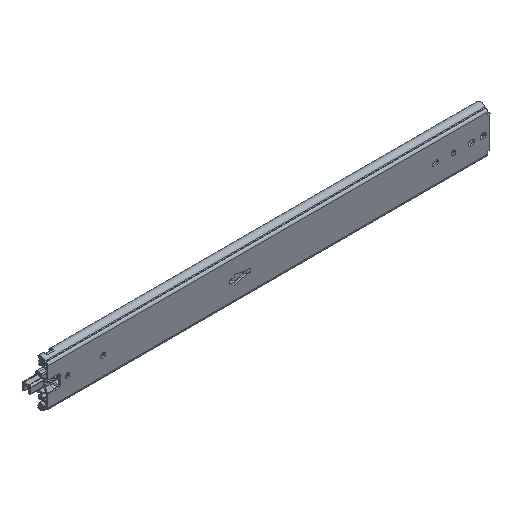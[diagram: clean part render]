
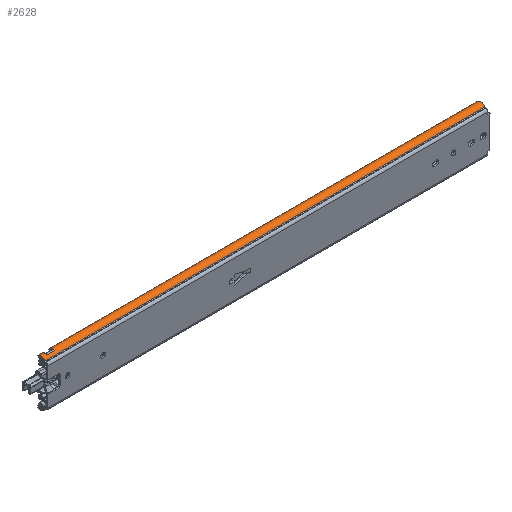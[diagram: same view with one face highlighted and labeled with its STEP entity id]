
A CAD part, isometric view. The second image highlights one B-rep face of the part: STEP entity #2628.
In plain terms, the highlighted cylindrical face has radius 7.25 mm (diameter 14.5 mm), a partial arc.
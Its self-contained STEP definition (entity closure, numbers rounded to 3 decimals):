
#5=CARTESIAN_POINT('',(0.,16.079,36.021));
#6=CARTESIAN_POINT('',(0.,15.489,36.501));
#7=CARTESIAN_POINT('',(0.,14.228,37.235));
#8=CARTESIAN_POINT('',(0.,12.05,37.743));
#9=CARTESIAN_POINT('',(0.,9.839,37.57));
#10=CARTESIAN_POINT('',(0.,7.778,36.754));
#11=CARTESIAN_POINT('',(0.,6.044,35.337));
#12=CARTESIAN_POINT('',(0.,5.235,34.131));
#13=CARTESIAN_POINT('',(0.,4.911,33.428));
#324=CARTESIAN_POINT('',(706.2,4.916,33.436));
#326=CARTESIAN_POINT('',(706.2,11.5,30.4));
#327=DIRECTION('',(-1.,0.,0.));
#328=DIRECTION('',(0.,-0.908,0.419));
#329=AXIS2_PLACEMENT_3D('',#326,#327,#328);
#335=CARTESIAN_POINT('',(0.,16.079,
36.021));
#336=CARTESIAN_POINT('',(0.465,16.446,35.722));
#337=CARTESIAN_POINT('',(0.932,16.779,35.392));
#338=CARTESIAN_POINT('',(1.401,17.079,35.031));
#340=DIRECTION('',(1.,0.,0.));
#341=VECTOR('',#340,6.099);
#342=CARTESIAN_POINT('',(1.401,17.079,35.031));
#343=LINE('',#342,#341);
#344=DIRECTION('',(1.,0.,0.));
#345=VECTOR('',#344,685.365);
#346=CARTESIAN_POINT('',(19.5,17.079,35.031));
#347=LINE('',#346,#345);
#348=CARTESIAN_POINT('',(704.865,17.079,35.031));
#349=CARTESIAN_POINT('',(705.158,16.877,35.273));
#350=CARTESIAN_POINT('',(705.646,16.409,35.775));
#351=CARTESIAN_POINT('',(706.107,15.442,36.529));
#352=CARTESIAN_POINT('',(706.2,14.673,36.934));
#353=CARTESIAN_POINT('',(706.2,14.255,37.106));
#355=DIRECTION('',(-1.,0.,0.));
#356=VECTOR('',#355,706.2);
#357=CARTESIAN_POINT('',(706.2,4.916,33.436));
#358=LINE('',#357,#356);
#375=CARTESIAN_POINT('',(7.5,11.5,30.4));
#376=DIRECTION('',(-1.,0.,0.));
#377=DIRECTION('',(0.,-0.412,0.911));
#378=AXIS2_PLACEMENT_3D('',#375,#376,#377);
#411=DIRECTION('',(-1.,0.,0.));
#412=VECTOR('',#411,12.);
#413=CARTESIAN_POINT('',(19.5,8.515,37.007));
#414=LINE('',#413,#412);
#499=CARTESIAN_POINT('',(19.5,11.5,30.4));
#500=DIRECTION('',(1.,0.,0.));
#501=DIRECTION('',(0.,0.769,0.639));
#502=AXIS2_PLACEMENT_3D('',#499,#500,#501);
#1802=CARTESIAN_POINT('',(0.,16.079,
36.021));
#1804=VERTEX_POINT('',#1802);
#1805=VERTEX_POINT('',#13);
#1859=CARTESIAN_POINT('',(1.401,17.079,35.031));
#1860=VERTEX_POINT('',#1859);
#2128=CARTESIAN_POINT('',(706.2,14.255,37.106));
#2129=VERTEX_POINT('',#2128);
#2134=VERTEX_POINT('',#324);
#2149=VERTEX_POINT('',#348);
#2154=CARTESIAN_POINT('',(7.5,17.079,35.031));
#2155=VERTEX_POINT('',#2154);
#2156=CARTESIAN_POINT('',(7.5,8.515,37.007));
#2157=VERTEX_POINT('',#2156);
#2158=CARTESIAN_POINT('',(19.5,8.515,37.007));
#2159=VERTEX_POINT('',#2158);
#2160=CARTESIAN_POINT('',(19.5,17.079,35.031));
#2161=VERTEX_POINT('',#2160);
#2605=CARTESIAN_POINT('',(0.,11.5,30.4));
#2606=DIRECTION('',(1.,0.,0.));
#2607=DIRECTION('',(0.,-1.,0.));
#2608=AXIS2_PLACEMENT_3D('',#2605,#2606,#2607);
#2609=CYLINDRICAL_SURFACE('',#2608,7.25);
#2610=ORIENTED_EDGE('',*,*,#2350,.T.);
#2612=ORIENTED_EDGE('',*,*,#2611,.T.);
#2614=ORIENTED_EDGE('',*,*,#2613,.F.);
#2616=ORIENTED_EDGE('',*,*,#2615,.F.);
#2618=ORIENTED_EDGE('',*,*,#2617,.F.);
#2620=ORIENTED_EDGE('',*,*,#2619,.T.);
#2621=ORIENTED_EDGE('',*,*,#2592,.T.);
#2622=ORIENTED_EDGE('',*,*,#2582,.F.);
#2624=ORIENTED_EDGE('',*,*,#2623,.T.);
#2625=ORIENTED_EDGE('',*,*,#2312,.F.);
#2626=EDGE_LOOP('',(#2610,#2612,#2614,#2616,#2618,#2620,#2621,#2622,#2624,
#2625));
#2627=FACE_OUTER_BOUND('',#2626,.F.);
#14=B_SPLINE_CURVE_WITH_KNOTS('',3,(#5,#6,#7,#8,#9,#10,#11,#12,#13),
.UNSPECIFIED.,.F.,.F.,(4,1,1,1,1,1,4),(0.,0.167,0.333,
0.5,0.667,0.833,1.),.UNSPECIFIED.);
#330=CIRCLE('',#329,7.25);
#339=B_SPLINE_CURVE_WITH_KNOTS('',3,(#335,#336,#337,#338),.UNSPECIFIED.,.F.,.F.,
(4,4),(0.,1.),.UNSPECIFIED.);
#354=B_SPLINE_CURVE_WITH_KNOTS('',3,(#348,#349,#350,#351,#352,#353),
.UNSPECIFIED.,.F.,.F.,(4,1,1,4),(0.,0.333,0.667,1.),
.UNSPECIFIED.);
#379=CIRCLE('',#378,7.25);
#503=CIRCLE('',#502,7.25);
#2312=EDGE_CURVE('',#1804,#1805,#14,.T.);
#2350=EDGE_CURVE('',#1804,#1860,#339,.T.);
#2582=EDGE_CURVE('',#2134,#2129,#330,.T.);
#2592=EDGE_CURVE('',#2149,#2129,#354,.T.);
#2611=EDGE_CURVE('',#1860,#2155,#343,.T.);
#2613=EDGE_CURVE('',#2157,#2155,#379,.T.);
#2615=EDGE_CURVE('',#2159,#2157,#414,.T.);
#2617=EDGE_CURVE('',#2161,#2159,#503,.T.);
#2619=EDGE_CURVE('',#2161,#2149,#347,.T.);
#2623=EDGE_CURVE('',#2134,#1805,#358,.T.);
#2628=ADVANCED_FACE('',(#2627),#2609,.T.);
